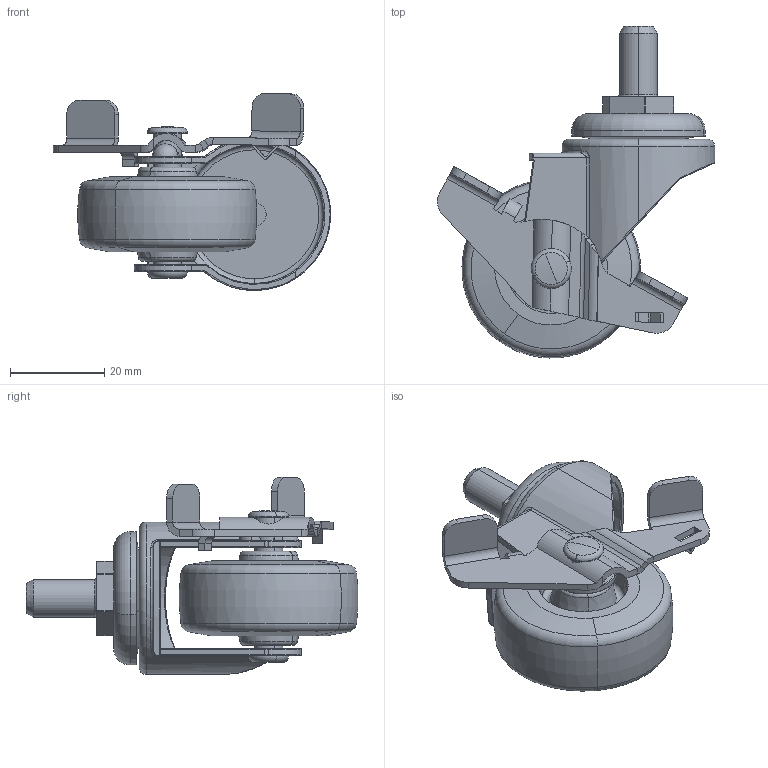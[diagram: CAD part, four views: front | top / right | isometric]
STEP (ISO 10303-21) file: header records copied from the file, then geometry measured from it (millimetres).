
FILE_DESCRIPTION (( 'STEP AP214' ), '1' );
FILE_NAME ('201415-2015-52 佪諳价陬.STEP', '2019-12-10T00:14:57', ( 'Owner' ), ( 'Organization' ), 'SwSTEP 2.0', 'SolidWorks 2014', '' );
FILE_SCHEMA (( 'AUTOMOTIVE_DESIGN' ));
Length unit declared in the file: millimetre
Products named in the file (7): 201415-2015-52 佪諳价陬; 20炵蹈 价陬穩隊; 260-23B 佪諳M8x15; 2015-52; 260A-14A 耜价; 200-03A 詩俖; 2015A-12A
Assembly tree (6 placements, depth 2):
  201415-2015-52 佪諳价陬
    260-23B 佪諳M8x15
    200-03A 詩俖
    2015A-12A
    260A-14A 耜价
    20炵蹈 价陬穩隊
    2015-52
Bounding box: 58.89 x 70.5 x 41.88 mm (x, y, z)
Volume: 26314.3 mm3; surface area: 16110.2 mm2
Topology: 7 solids, 7 shells, 286 faces, 683 edges, 414 vertices
Faces by surface type: plane 94, cylinder 89, torus 57, bspline 26, cone 18, sphere 2
Entity records: 9475 total; most frequent: CARTESIAN_POINT 2720, DIRECTION 1377, ORIENTED_EDGE 1362, EDGE_CURVE 681, AXIS2_PLACEMENT_3D 545, VERTEX_POINT 414, EDGE_LOOP 303, VECTOR 287
